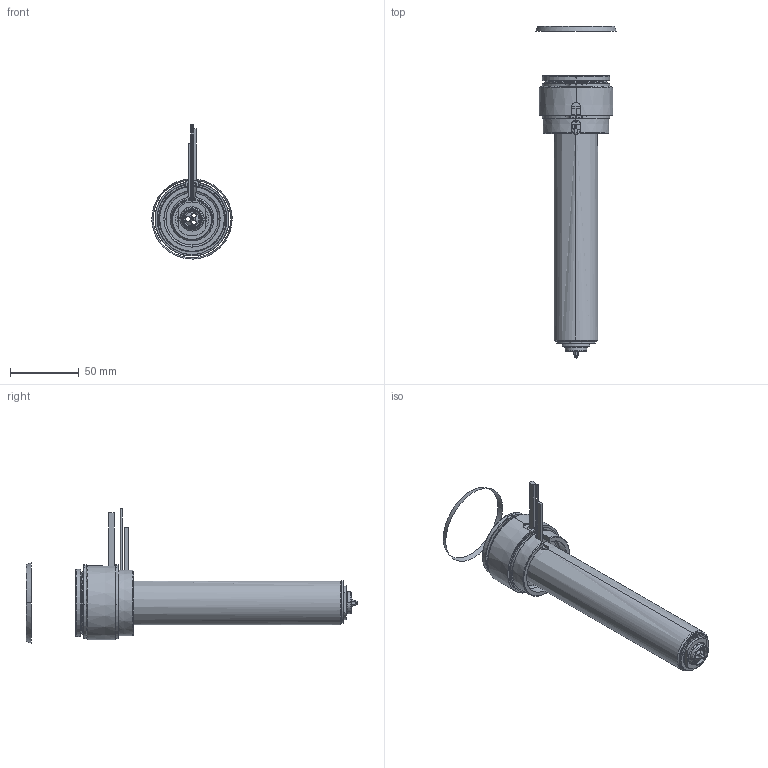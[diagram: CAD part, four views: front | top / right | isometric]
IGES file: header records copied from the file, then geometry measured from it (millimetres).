
Start section: SolidWorks IGES file using analytic representation for surfaces
Global section: file name: C:\Documents and Settings\ws-20\Desktop\TEM\UGEP5504-S-A-1 [Øf-1.55 ØC-13].IGS; native system: SolidWorks 2012; preprocessor: SolidWorks 2012; author: ws-20; date: 120427.082024; units: millimetre
Bounding box: 58.57 x 242.24 x 97.91 mm (x, y, z)
Surface area: 85557.7 mm2 (no closed solid volume)
Topology: 0 solids, 0 shells, 178 faces, 3636 edges, 3636 vertices
Faces by surface type: revolution 115, bspline 63
